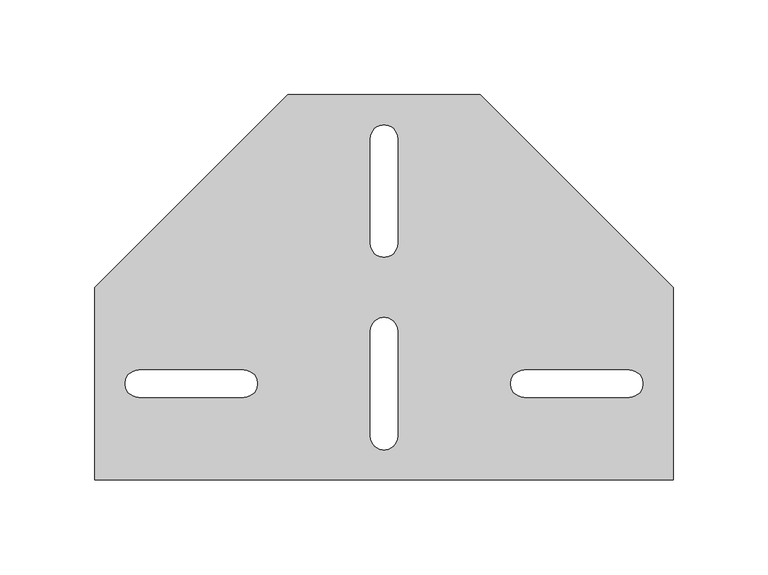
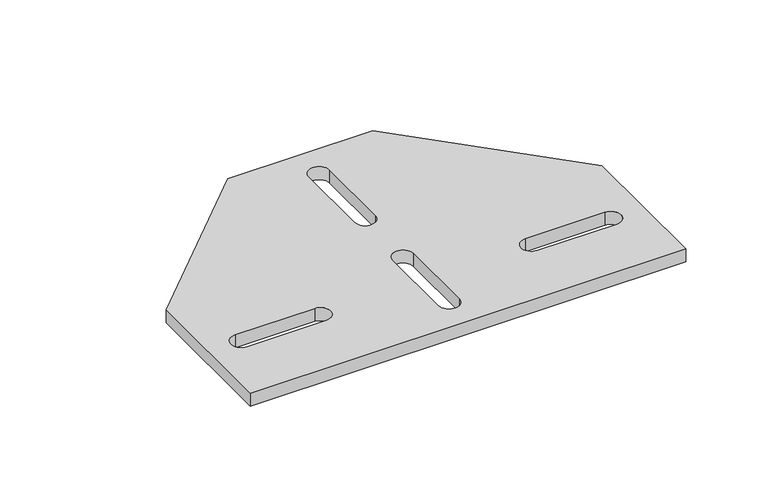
"""IFC4 building model written with IfcOpenShell, lengths in millimetres: proxy geometry, 14NSF-P24 : 14NSF-P24."""

from ifc_helpers import new_model, si_unit, point, frame_2d, origin, origin_with_axes, place, context, project, spatial, polyline, circle_curve, trimmed, segment, composite_curve, outline, extrude, source, transform, mapped, element, save


def generic_models_131348a9(model_context):
    return source(origin(), model_context, "Body", "SweptSolid", [
        extrude(outline(polyline([(-152.4, 0.0), (-152.4, 101.6), (-50.8, 203.2), (50.8, 203.2), (152.4, 101.6), (152.4, 0.0), (-152.4, 0.0)]), holes=[composite_curve([segment(trimmed(circle_curve(frame_2d((-73.81875, 50.8)), 7.14375), [point((-73.81875, 43.65625))], [point((-73.81875, 57.94375))], True, "CARTESIAN"), True, "CONTINUOUS"), segment(polyline([(-73.81875, 57.94375), (-129.38125, 57.94375)]), True, "CONTINUOUS"), segment(trimmed(circle_curve(frame_2d((-129.38125, 50.8)), 7.14375), [point((-129.38125, 57.94375))], [point((-129.38125, 43.65625))], True, "CARTESIAN"), True, "CONTINUOUS"), segment(polyline([(-129.38125, 43.65625), (-73.81875, 43.65625)]), True, "CONTINUOUS")], self_intersect=False), composite_curve([segment(trimmed(circle_curve(frame_2d((0.0, 23.01875)), 7.14375), [point((-7.14375, 23.01875))], [point((7.14375, 23.01875))], True, "CARTESIAN"), True, "CONTINUOUS"), segment(polyline([(7.14375, 23.01875), (7.14375, 78.58125)]), True, "CONTINUOUS"), segment(trimmed(circle_curve(frame_2d((0.0, 78.58125)), 7.14375), [point((7.14375, 78.58125))], [point((-7.14375, 78.58125))], True, "CARTESIAN"), True, "CONTINUOUS"), segment(polyline([(-7.14375, 78.58125), (-7.14375, 23.01875)]), True, "CONTINUOUS")], self_intersect=False), composite_curve([segment(trimmed(circle_curve(frame_2d((129.38125, 50.8)), 7.14375), [point((129.38125, 43.65625))], [point((129.38125, 57.94375))], True, "CARTESIAN"), True, "CONTINUOUS"), segment(polyline([(129.38125, 57.94375), (73.81875, 57.94375)]), True, "CONTINUOUS"), segment(trimmed(circle_curve(frame_2d((73.81875, 50.8)), 7.14375), [point((73.81875, 57.94375))], [point((73.81875, 43.65625))], True, "CARTESIAN"), True, "CONTINUOUS"), segment(polyline([(73.81875, 43.65625), (129.38125, 43.65625)]), True, "CONTINUOUS")], self_intersect=False), composite_curve([segment(trimmed(circle_curve(frame_2d((0.0, 124.61875)), 7.14375), [point((-7.14375, 124.61875))], [point((7.14375, 124.61875))], True, "CARTESIAN"), True, "CONTINUOUS"), segment(polyline([(7.14375, 124.61875), (7.14375, 180.18125)]), True, "CONTINUOUS"), segment(trimmed(circle_curve(frame_2d((0.0, 180.18125)), 7.14375), [point((7.14375, 180.18125))], [point((-7.14375, 180.18125))], True, "CARTESIAN"), True, "CONTINUOUS"), segment(polyline([(-7.14375, 180.18125), (-7.14375, 124.61875)]), True, "CONTINUOUS")], self_intersect=False)]), origin_with_axes(), (0.0, 0.0, 1.0), 9.525),
    ])


if __name__ == "__main__":
    model = new_model("IFC4")
    model_context = context("Model", 3, world=origin())
    ifc_project = project(units=[si_unit("LENGTHUNIT", "METRE", prefix="MILLI")], contexts=[model_context])
    site = spatial("IfcSite", under=ifc_project)
    building = spatial("IfcBuilding", under=site)
    placement = place(None, origin())
    generic_models_shape = generic_models_131348a9(model_context)
    element("IfcBuildingElementProxy", 1, Name="14NSF-P24 : 14NSF-P24", ObjectType="14NSF-P24 : 14NSF-P24", at=placement, inside=building, context=model_context, shape_type="MappedRepresentation", body=[
        mapped(generic_models_shape, transform((0.0, 0.0, 0.0), x_axis=(1.0, 0.0, 0.0), y_axis=(0.0, 1.0, 0.0), z_axis=(0.0, 0.0, 1.0))),
    ])
    save(model, "model.ifc")
